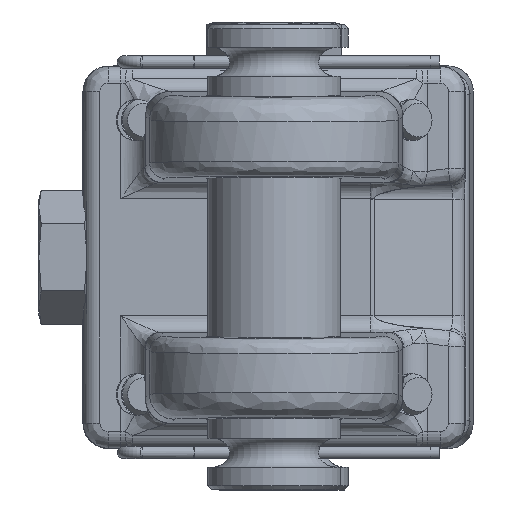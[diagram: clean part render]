
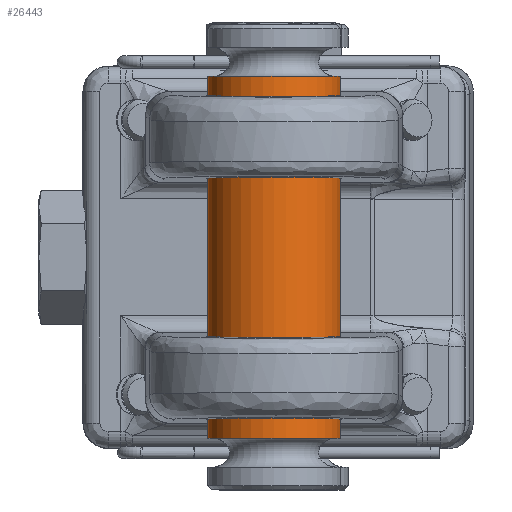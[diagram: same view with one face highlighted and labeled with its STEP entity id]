
A CAD part, left-side view. The second image highlights one B-rep face of the part: STEP entity #26443.
In plain terms, the highlighted cylindrical face has radius 12.7 mm (diameter 25.4 mm), a full revolution.
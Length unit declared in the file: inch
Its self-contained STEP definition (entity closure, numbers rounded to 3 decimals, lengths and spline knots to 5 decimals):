
#26339=CARTESIAN_POINT('',(-1.35975,0.5,0.));
#26340=VERTEX_POINT('',#26339);
#26341=CARTESIAN_POINT('',(-1.35975,0.0,0.0));
#26342=DIRECTION('',(1.0,0.0,0.0));
#26343=DIRECTION('',(0.0,-1.0,0.0));
#26344=AXIS2_PLACEMENT_3D('',#26341,#26342,#26343);
#26345=CIRCLE('',#26344,0.5);
#26346=EDGE_CURVE('',#26340,#26340,#26345,.T.);
#26371=CARTESIAN_POINT('',(1.35975,0.5,0.));
#26372=VERTEX_POINT('',#26371);
#26373=CARTESIAN_POINT('',(1.35975,0.0,0.0));
#26374=DIRECTION('',(-1.0,0.0,0.0));
#26375=DIRECTION('',(0.0,-1.0,0.0));
#26376=AXIS2_PLACEMENT_3D('',#26373,#26374,#26375);
#26377=CIRCLE('',#26376,0.5);
#26378=EDGE_CURVE('',#26372,#26372,#26377,.T.);
#26432=CARTESIAN_POINT('',(0.0,0.0,0.0));
#26433=DIRECTION('',(1.0,0.0,0.0));
#26434=DIRECTION('',(0.0,-1.0,0.0));
#26435=AXIS2_PLACEMENT_3D('',#26432,#26433,#26434);
#26436=CYLINDRICAL_SURFACE('',#26435,0.5);
#26437=ORIENTED_EDGE('',*,*,#26346,.T.);
#26438=EDGE_LOOP('',(#26437));
#26439=FACE_OUTER_BOUND('',#26438,.T.);
#26440=ORIENTED_EDGE('',*,*,#26378,.T.);
#26441=EDGE_LOOP('',(#26440));
#26442=FACE_BOUND('',#26441,.T.);
#26443=ADVANCED_FACE('',(#26439,#26442),#26436,.T.);
